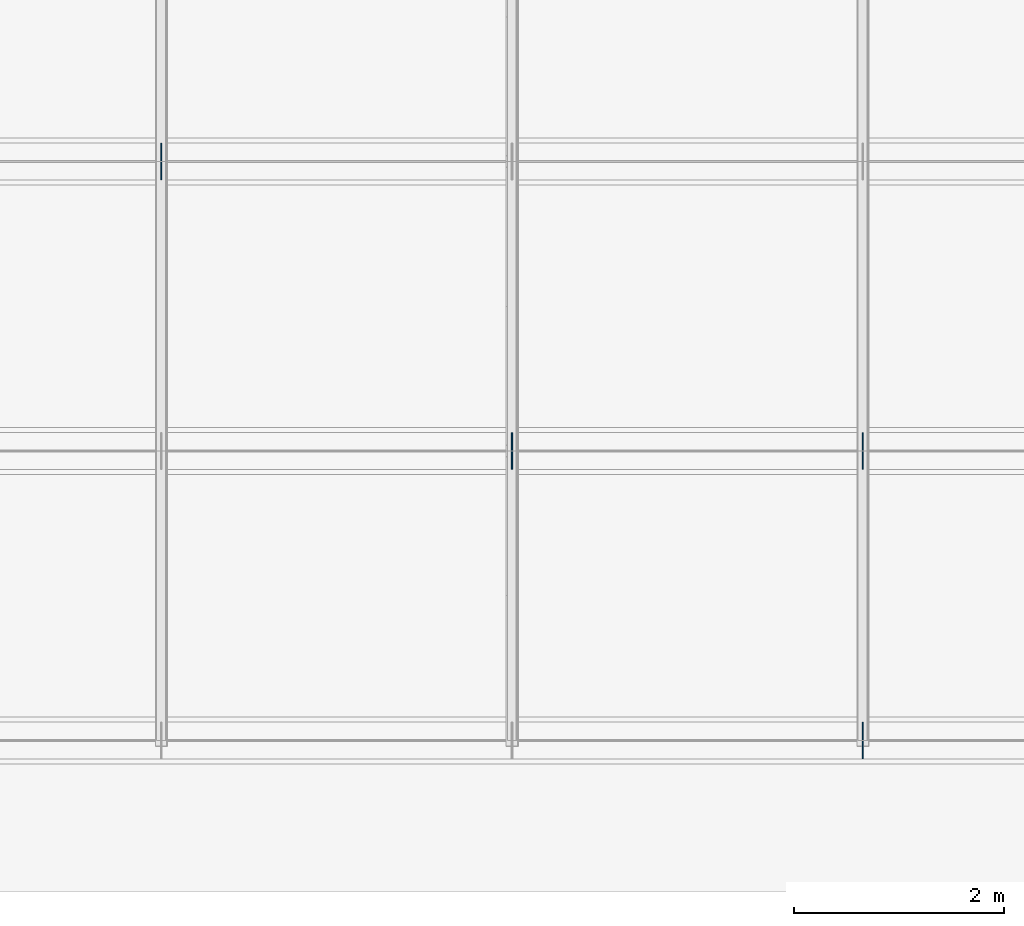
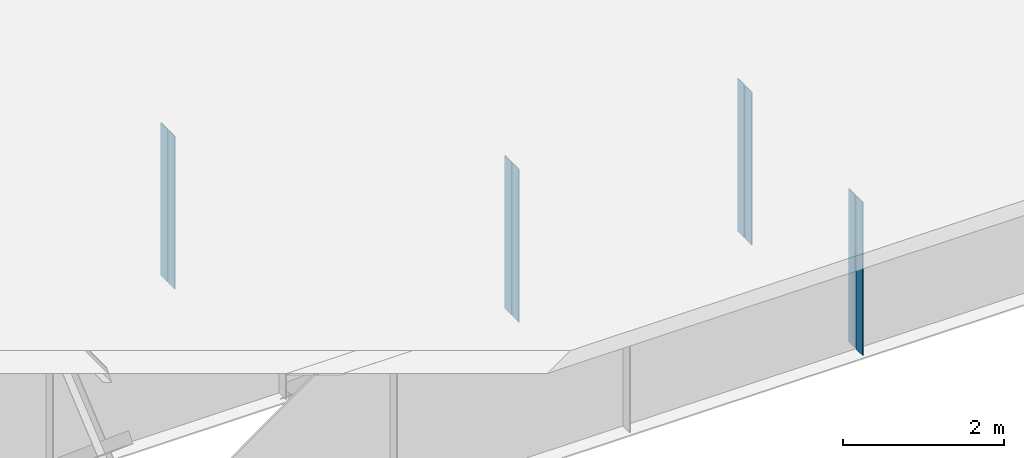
# One storey, part 9 of 19: 8 plates.
"""IFC4 building model written with IfcOpenShell, lengths in metres."""

import ifcopenshell
import ifcopenshell.guid

model = None  # the IFC model being written
_history = None  # IfcOwnerHistory: only IFC2X3 demands one
_inside = {}  # id of a spatial element -> (the spatial element, [elements in it])
_under = {}  # id of a project, library or spatial element -> (it, [spatial elements below it])
_declared = {}  # id of a project -> (the project, [libraries it declares])
_typed = {}  # id of a type object -> (the type object, [elements of that type])
_made_of = {}  # id of a material, layer set ... -> (it, [elements and type objects made of it])


def new_model(schema):
    """Start an empty IFC model of exactly this schema.

    Asked for "IFC4X3", IfcOpenShell would pick the latest addendum, in which some entities
    have other attributes; the version numbers below select the first issue.
    IFC2X3 requires an IfcOwnerHistory on every rooted entity: one is made here for all.
    """
    global model, _history
    if schema == "IFC4X3":
        model = ifcopenshell.file(schema_version=(4, 3, 0, 0))
    else:
        model = ifcopenshell.file(schema=schema)
    _inside.clear()
    _under.clear()
    _declared.clear()
    _typed.clear()
    _made_of.clear()
    _history = None
    if model.schema == "IFC2X3":
        org = make("IfcOrganization", Name="unknown")
        user = make(
            "IfcPersonAndOrganization",
            ThePerson=make("IfcPerson", FamilyName="unknown"),
            TheOrganization=org,
        )
        app = make(
            "IfcApplication",
            ApplicationDeveloper=org,
            Version="unknown",
            ApplicationFullName="unknown",
            ApplicationIdentifier="unknown",
        )
        _history = make(
            "IfcOwnerHistory",
            OwningUser=user,
            OwningApplication=app,
            ChangeAction="ADDED",
            CreationDate=0,
        )
    return model


def make(cls, **values):
    """One entity of the class cls with the attributes given. An attribute that is None is left unset."""
    return model.create_entity(
        cls, **{name: value for name, value in values.items() if value is not None}
    )


def rooted(cls, **values):
    """An entity with a GlobalId (a new one), such as an element, a storey or a relation."""
    return make(cls, GlobalId=ifcopenshell.guid.new(), OwnerHistory=_history, **values)


def si_unit(unit_type, name, prefix=None):
    """IfcSIUnit, for example si_unit("LENGTHUNIT", "METRE", prefix="MILLI")."""
    return make("IfcSIUnit", UnitType=unit_type, Prefix=prefix, Name=name)


def assignment(units):
    """IfcUnitAssignment: the units of a project."""
    return None if units is None else make("IfcUnitAssignment", Units=units)


def point(xyz):
    """IfcCartesianPoint."""
    return None if xyz is None else make("IfcCartesianPoint", Coordinates=xyz)


def direction(xyz):
    """IfcDirection."""
    return None if xyz is None else make("IfcDirection", DirectionRatios=xyz)


def frame(location, z_axis=None, x_axis=None):
    """IfcAxis2Placement3D, a coordinate frame: its origin and axes. An axis left out is left unset."""
    return make(
        "IfcAxis2Placement3D",
        Location=point(location),
        Axis=direction(z_axis),
        RefDirection=direction(x_axis),
    )


def frame_2d(location, x_axis=None):
    """IfcAxis2Placement2D, a coordinate frame in the plane: its origin and x axis."""
    return make(
        "IfcAxis2Placement2D", Location=point(location), RefDirection=direction(x_axis)
    )


def origin():
    """The frame at (0, 0, 0) with its axes left unset."""
    return frame((0.0, 0.0, 0.0))


def origin_with_axes():
    """The frame at (0, 0, 0) with the z axis (0, 0, 1) and the x axis (1, 0, 0) written out."""
    return frame((0.0, 0.0, 0.0), z_axis=(0.0, 0.0, 1.0), x_axis=(1.0, 0.0, 0.0))


def origin_2d_with_axis():
    """The frame at (0, 0) in the plane with the x axis (1, 0) written out."""
    return frame_2d((0.0, 0.0), x_axis=(1.0, 0.0))


def place(relative_to, where):
    """IfcLocalPlacement: puts the frame where relative to a parent placement (None: the world)."""
    return make(
        "IfcLocalPlacement", PlacementRelTo=relative_to, RelativePlacement=where
    )


def context(
    kind, dimensions, precision=None, world=None, true_north=None, identifier=None
):
    """IfcGeometricRepresentationContext, for example the 3D "Model" context."""
    return make(
        "IfcGeometricRepresentationContext",
        ContextIdentifier=identifier,
        ContextType=kind,
        CoordinateSpaceDimension=dimensions,
        Precision=precision,
        WorldCoordinateSystem=world,
        TrueNorth=true_north,
    )


def subcontext(parent, identifier, kind, view, scale=None):
    """IfcGeometricRepresentationSubContext, for example "Body" below "Model"."""
    return make(
        "IfcGeometricRepresentationSubContext",
        ContextIdentifier=identifier,
        ContextType=kind,
        ParentContext=parent,
        TargetScale=scale,
        TargetView=view,
    )


def project(units=None, contexts=None):
    """IfcProject with its units and contexts."""
    return rooted(
        "IfcProject",
        Name="project",
        RepresentationContexts=contexts,
        UnitsInContext=assignment(units),
    )


def spatial(cls, under=None, at=None, **own):
    """A site, building, storey or space (cls), placed at a placement, below another one or the project."""
    s = rooted(cls, ObjectPlacement=at, **own)
    if under is not None:
        _under.setdefault(under.id(), (under, []))[1].append(s)
    return s


def profile(cls, at=None, kind="AREA", **sizes):
    """A parametric profile (cls). Its sizes go by their IFC names, for example OverallWidth=200.0."""
    return make(cls, ProfileType=kind, Position=at, **sizes)


def rectangle(**sizes):
    """IfcRectangleProfileDef."""
    return profile("IfcRectangleProfileDef", **sizes)


def extrude(swept, where, along, depth):
    """IfcExtrudedAreaSolid: the profile swept, set in the frame where, extruded along a direction by depth."""
    return make(
        "IfcExtrudedAreaSolid",
        SweptArea=swept,
        Position=where,
        ExtrudedDirection=direction(along),
        Depth=depth,
    )


def shape(context_of_items, identifier, shape_type, items):
    """IfcShapeRepresentation: the items that make up one representation, for example the "Body"."""
    return make(
        "IfcShapeRepresentation",
        ContextOfItems=context_of_items,
        RepresentationIdentifier=identifier,
        RepresentationType=shape_type,
        Items=items,
    )


def made_of(thing, what):
    """Note that an element or type object is made of a material, layer set ...; save() writes the relation."""
    if what is not None:
        _made_of.setdefault(what.id(), (what, []))[1].append(thing)
    return thing


def element(
    cls,
    number,
    at=None,
    inside=None,
    cuts=None,
    type_object=None,
    material=None,
    context=None,
    identifier="Body",
    shape_type=None,
    held_by="IfcProductDefinitionShape",
    body=None,
    shapes=None,
    **own,
):
    """One element of the class cls, such as IfcWall. Its Tag is "e" and its number.

    at: its placement. inside: the storey or other place that contains it. cuts: it is an
    opening in that element (IfcRelVoidsElement). A single representation is given by context,
    identifier, shape_type and body (its items); several are given by shapes. held_by: the class
    of the entity that holds the representations. save() writes the other relations.
    """
    e = rooted(cls, Tag="e%d" % number, ObjectPlacement=at, **own)
    if body is not None:
        shapes = [shape(context, identifier, shape_type, body)]
    if shapes is not None:
        e.Representation = make(held_by, Representations=shapes)
    if inside is not None:
        _inside.setdefault(inside.id(), (inside, []))[1].append(e)
    if cuts is not None:
        rooted(
            "IfcRelVoidsElement", RelatingBuildingElement=cuts, RelatedOpeningElement=e
        )
    if type_object is not None:
        _typed.setdefault(type_object.id(), (type_object, []))[1].append(e)
    return made_of(e, material)


def aggregate(whole, parts):
    """IfcRelAggregates: a whole, such as a stair, and the parts it consists of."""
    return rooted("IfcRelAggregates", RelatingObject=whole, RelatedObjects=parts)


def save(model, path):
    """Write the relations noted so far, then the file.

    IfcRelAggregates (storeys below a building ...), IfcRelContainedInSpatialStructure (elements
    in a storey), IfcRelDefinesByType, IfcRelAssociatesMaterial and IfcRelDeclares: one each for
    every whole, place, type object, material and project.
    """
    for whole, parts in _under.values():
        aggregate(whole, parts)
    for where, things in _inside.values():
        rooted(
            "IfcRelContainedInSpatialStructure",
            RelatedElements=things,
            RelatingStructure=where,
        )
    for kind, things in _typed.values():
        rooted("IfcRelDefinesByType", RelatedObjects=things, RelatingType=kind)
    for what, things in _made_of.values():
        rooted("IfcRelAssociatesMaterial", RelatedObjects=things, RelatingMaterial=what)
    for by, libraries in _declared.values():
        rooted("IfcRelDeclares", RelatingContext=by, RelatedDefinitions=libraries)
    model.write(path)


model = new_model("IFC4")

# Units and contexts
model_context = context("Model", 3, precision=1e-05, world=origin())
body_context = subcontext(model_context, "Body", "Model", "MODEL_VIEW")
ifc_project = project(units=[si_unit("LENGTHUNIT", "METRE"), si_unit("AREAUNIT", "SQUARE_METRE"), si_unit("VOLUMEUNIT", "CUBIC_METRE"), si_unit("PLANEANGLEUNIT", "RADIAN")], contexts=[model_context])

# Site, building, storey
site_placement = place(None, origin_with_axes())
site = spatial("IfcSite", under=ifc_project, at=site_placement, Name="Default Site")
building_placement = place(site_placement, origin_with_axes())
building = spatial("IfcBuilding", under=site, at=building_placement, Name="Bridge Structure")
storey_placement = place(building_placement, origin_with_axes())
storey = spatial("IfcBuildingStorey", under=building, at=storey_placement, Name="Superstructure")

# Plates
for number, where, z_axis, x_axis, name in (
    (1, (23.331, -5.4085, -1.157), (0.0, 0.0, 1.0), (1.0, 0.0, 0.0), "Intermediate Stiffener 1"),
    (2, (23.331, -5.5915, -1.157), (0.0, 0.0, 1.0), (1.0, 0.0, 0.0), "Intermediate Stiffener 1"),
    (3, (19.998, -2.6585, -1.157), (0.0, 0.0, 1.0), (1.0, 0.0, 0.0), "Intermediate Stiffener 2"),
    (4, (19.998, -2.8415, -1.157), (0.0, 0.0, 1.0), (1.0, 0.0, 0.0), "Intermediate Stiffener 2"),
    (5, (23.331, -2.6585, -1.157), (0.0, 0.0, 1.0), (1.0, 0.0, 0.0), "Intermediate Stiffener 2"),
    (6, (23.331, -2.8415, -1.157), (0.0, 0.0, 1.0), (1.0, 0.0, 0.0), "Intermediate Stiffener 2"),
    (7, (16.665, 0.0915, -1.157), (0.0, 0.0, 1.0), (1.0, 0.0, 0.0), "Intermediate Stiffener 3"),
    (8, (16.665, -0.0915, -1.157), (0.0, 0.0, 1.0), (1.0, 0.0, 0.0), "Intermediate Stiffener 3"),
):
    element("IfcPlate", number, at=place(storey_placement, frame(where, z_axis=z_axis, x_axis=x_axis)), inside=storey, Name=name, context=body_context, shape_type="SweptSolid", body=[
        extrude(rectangle(XDim=0.012, YDim=0.167, at=origin_2d_with_axis()), origin_with_axes(), (0.0, 0.0, 1.0), 2.314),
    ])

save(model, "model.ifc")
